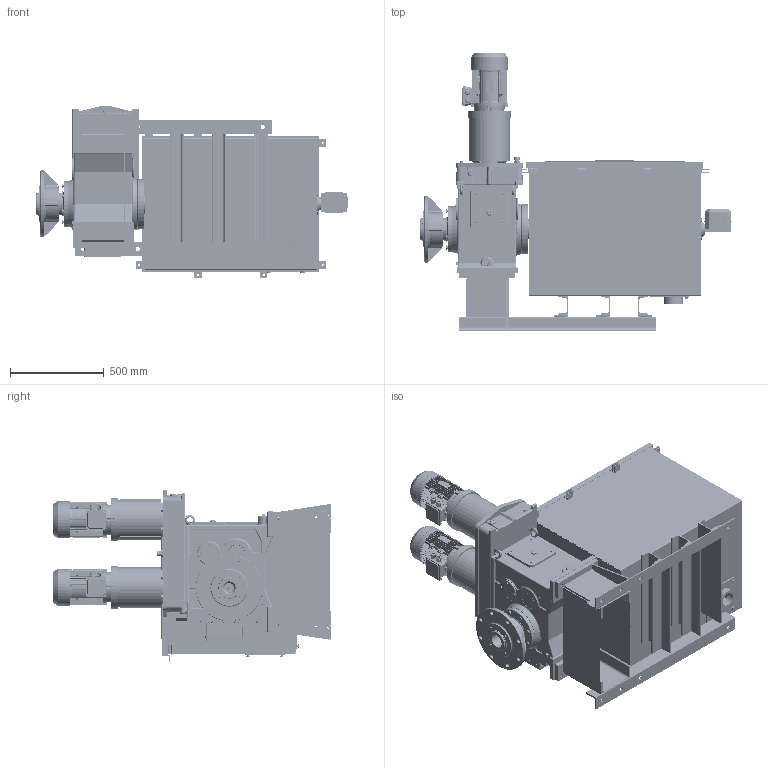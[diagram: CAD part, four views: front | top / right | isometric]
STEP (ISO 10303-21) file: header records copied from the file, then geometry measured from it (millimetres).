
FILE_DESCRIPTION(/* description */ (''),/* implementation_level */ '2;1');
FILE_NAME(/* name */ 'K:\NEMANJA\CABLE REEL\CABLE REEL DA\0700-6\07006002 DAPR-MCGBSR\STEP\75910 .stp',/* time_stamp */ '2017-03-16T10:48:39+01:00',/* author */ ('milman01'),/* organization */ ('Hillmar Industries Ltd.'),/* preprocessor_version */ 'ST-DEVELOPER v16.1',/* originating_system */ 'Autodesk Inventor 2016',/* authorisation */ '');
FILE_SCHEMA (('AUTOMOTIVE_DESIGN { 1 0 10303 214 3 1 1 }'));
Products named in the file (1): 75910 
Bounding box: 1658.14 x 1482.55 x 919.47 mm (x, y, z)
Volume: 76142831.7 mm3; surface area: 17549089.3 mm2
Topology: 24 solids, 24 shells, 10201 faces, 27592 edges, 17805 vertices
Faces by surface type: plane 6561, cylinder 1998, cone 790, bspline 529, torus 276, sphere 47
Full cylindrical faces by diameter (mm): 3 x8, 7 x4, 8 x26, 8.376 x18, 8.731 x1, 9 x19, 10 x22, 10.106 x69, 10.38 x1, 11 x32, 11.053 x15, 12 x28, 12.5 x6, 13 x42, 13.2 x1, 13.5 x8, 14 x32, 15 x9, 16.974 x4, 17.2 x15, 17.294 x4, 17.336 x1, 17.4 x7, 17.475 x1, 18 x7, 18.256 x3, 18.38 x4, 20 x22, 20.5 x4, 21.336 x1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
Entity records: 338415 total; most frequent: CARTESIAN_POINT 80371, ORIENTED_EDGE 52394, DIRECTION 48515, EDGE_CURVE 26162, VERTEX_POINT 17340, LINE 16319, VECTOR 16319, AXIS2_PLACEMENT_3D 16098
